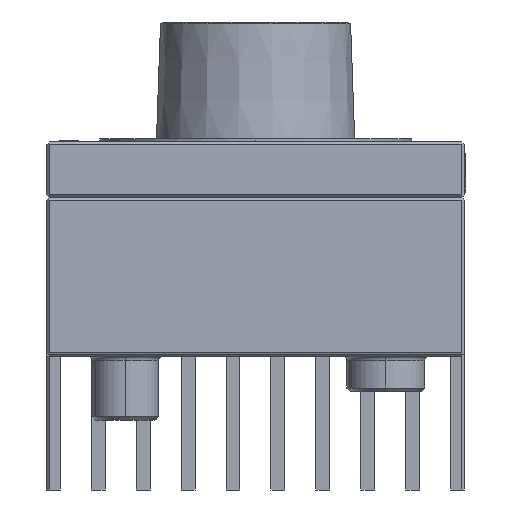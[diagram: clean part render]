
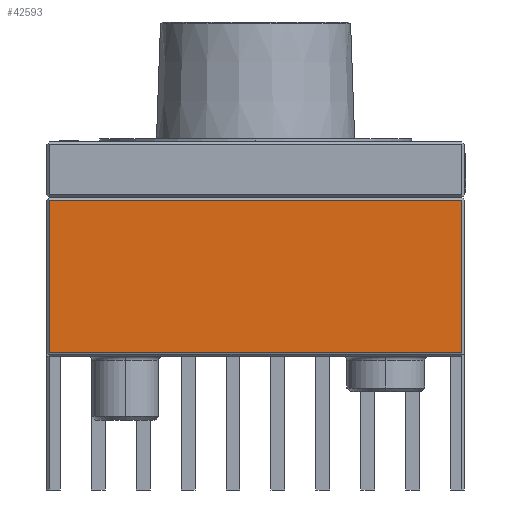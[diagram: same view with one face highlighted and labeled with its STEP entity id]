
A CAD part, left-side view. The second image highlights one B-rep face of the part: STEP entity #42593.
In plain terms, the highlighted planar face has unit normal (-1, 0, 0).
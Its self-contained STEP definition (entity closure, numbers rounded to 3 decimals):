
#13338=DIRECTION('',(0.,-1.,0.));
#13339=VECTOR('',#13338,74.);
#13340=CARTESIAN_POINT('',(-35.,37.,-41.293));
#13341=LINE('',#13340,#13339);
#13345=DIRECTION('',(0.,0.,-1.));
#13346=VECTOR('',#13345,27.293);
#13347=CARTESIAN_POINT('',(-35.,37.,-14.));
#13348=LINE('',#13347,#13346);
#13352=DIRECTION('',(0.,-1.,0.));
#13353=VECTOR('',#13352,74.);
#13354=CARTESIAN_POINT('',(-35.,37.,-14.));
#13355=LINE('',#13354,#13353);
#13359=DIRECTION('',(0.,0.,-1.));
#13360=VECTOR('',#13359,27.293);
#13361=CARTESIAN_POINT('',(-35.,-37.,-14.));
#13362=LINE('',#13361,#13360);
#29605=CARTESIAN_POINT('',(-35.,37.,-14.));
#29606=CARTESIAN_POINT('',(-35.,-37.,-14.));
#29607=VERTEX_POINT('',#29605);
#29608=VERTEX_POINT('',#29606);
#30547=CARTESIAN_POINT('',(-35.,-37.,-41.293));
#30549=VERTEX_POINT('',#30547);
#30553=CARTESIAN_POINT('',(-35.,37.,-41.293));
#30554=VERTEX_POINT('',#30553);
#42579=CARTESIAN_POINT('',(-35.,37.5,-3.5));
#42580=DIRECTION('',(-1.,0.,0.));
#42581=DIRECTION('',(0.,-1.,0.));
#42582=AXIS2_PLACEMENT_3D('',#42579,#42580,#42581);
#42583=PLANE('',#42582);
#42585=ORIENTED_EDGE('',*,*,#42584,.F.);
#42587=ORIENTED_EDGE('',*,*,#42586,.F.);
#42589=ORIENTED_EDGE('',*,*,#42588,.T.);
#42590=ORIENTED_EDGE('',*,*,#42532,.T.);
#42591=EDGE_LOOP('',(#42585,#42587,#42589,#42590));
#42592=FACE_OUTER_BOUND('',#42591,.F.);
#42532=EDGE_CURVE('',#29608,#30549,#13362,.T.);
#42584=EDGE_CURVE('',#30554,#30549,#13341,.T.);
#42586=EDGE_CURVE('',#29607,#30554,#13348,.T.);
#42588=EDGE_CURVE('',#29607,#29608,#13355,.T.);
#42593=ADVANCED_FACE('',(#42592),#42583,.T.);
